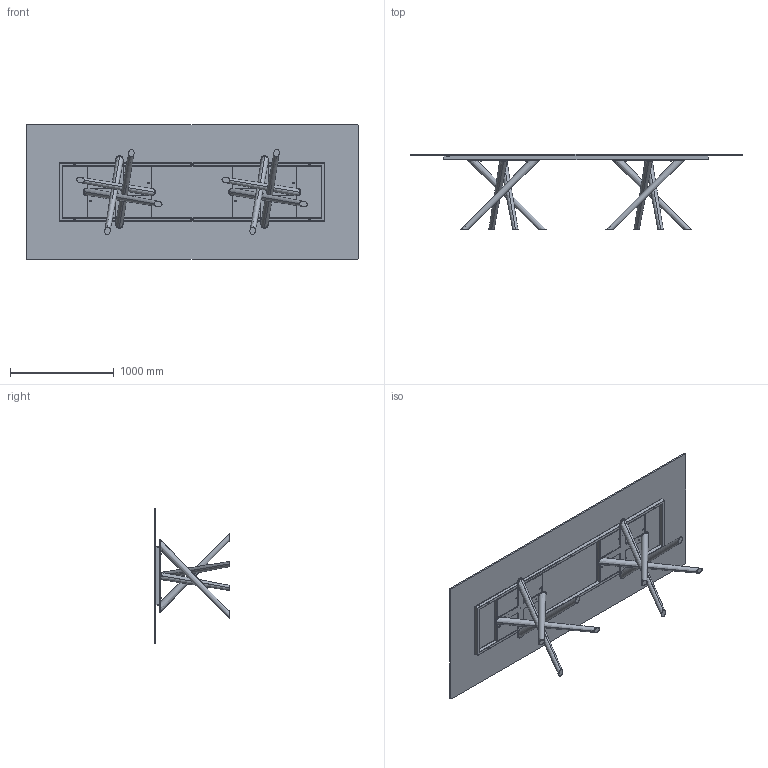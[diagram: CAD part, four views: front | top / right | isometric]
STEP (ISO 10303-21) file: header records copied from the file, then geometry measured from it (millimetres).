
FILE_DESCRIPTION (( 'STEP AP203' ), '1' );
FILE_NAME ('BA25G.STEP', '2024-08-08T06:08:30', ( '' ), ( '' ), 'SwSTEP 2.0', 'SolidWorks 2022', '' );
FILE_SCHEMA (( 'CONFIG_CONTROL_DESIGN' ));
Length unit declared in the file: millimetre
Products named in the file (12): BA25G; TTAV03-06-TELAIO UNIVERSALE X TAVOLI 300-340cm; rondella M8_8X16; TTAV03_02-06-VASSOIO IRRIGIDIMENTO TELAIO UNIVERSALE RETTANGOLARE; BAB000000-00-BALY BASE GREZZA; 434070-00-PIEDINO TPV GOMMA NERO D. 30x8max18; BAB000000_01-00-Croce Superiore baly; M8xXXmm_M8x20mm; BAB000000_02-00-basamento pali conificati; C2XCRXX-00-Piani Rettangolari Cristallo_25 3200x1300; Parte5^BAB000000-00-BALY BASE GREZZA; TTAV03_01-06-RING TUBO TELAIO UNIVERSALE X TAVOLI 300-340cm
Assembly tree (34 placements, depth 3):
  BA25G
    C2XCRXX-00-Piani Rettangolari Cristallo_25 3200x1300
    TTAV03-06-TELAIO UNIVERSALE X TAVOLI 300-340cm
      TTAV03_01-06-RING TUBO TELAIO UNIVERSALE X TAVOLI 300-340cm
      TTAV03_02-06-VASSOIO IRRIGIDIMENTO TELAIO UNIVERSALE RETTANGOLARE  x2
    BAB000000-00-BALY BASE GREZZA  x2
      BAB000000_01-00-Croce Superiore baly
      BAB000000_02-00-basamento pali conificati
      Parte5^BAB000000-00-BALY BASE GREZZA
    434070-00-PIEDINO TPV GOMMA NERO D. 30x8max18  x8
    M8xXXmm_M8x20mm  x8
    rondella M8_8X16  x8
Bounding box: 3200 x 730 x 1300 mm (x, y, z)
Volume: 71834042 mm3; surface area: 14878840.9 mm2
Topology: 54 solids, 54 shells, 1032 faces, 2334 edges, 1396 vertices
Faces by surface type: plane 434, cylinder 294, cone 152, torus 128, bspline 16, sphere 8
Entity records: 15204 total; most frequent: CARTESIAN_POINT 3779, DIRECTION 2046, ORIENTED_EDGE 1918, EDGE_CURVE 959, AXIS2_PLACEMENT_3D 747, VERTEX_POINT 594, VECTOR 552, LINE 552
